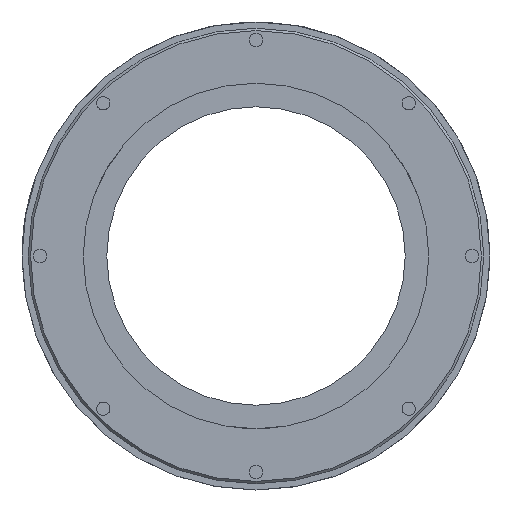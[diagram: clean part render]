
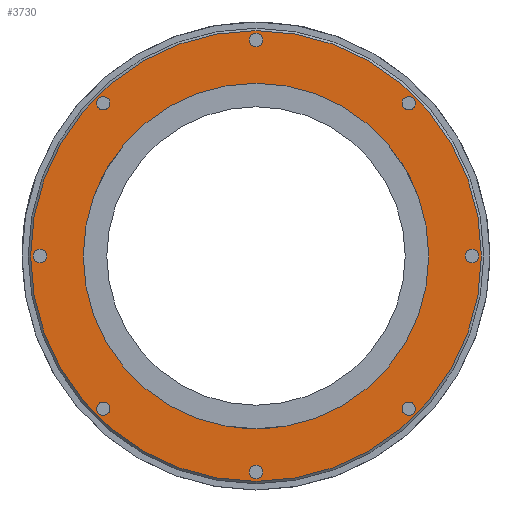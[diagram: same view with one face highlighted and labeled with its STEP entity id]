
A CAD part, left-side view. The second image highlights one B-rep face of the part: STEP entity #3730.
In plain terms, the highlighted planar face has unit normal (-1, 0, 0).
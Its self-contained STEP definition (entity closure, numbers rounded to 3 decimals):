
#3730=ADVANCED_FACE('3-0-545',(#4308,#4309,#4310,#4311,#4312,#4313,#4314,
#4315,#4316,#4317),#3977,.T.);
#3977=PLANE('',#7793);
#4308=FACE_BOUND('',#4630,.T.);
#4309=FACE_BOUND('',#4631,.T.);
#4310=FACE_BOUND('',#4632,.T.);
#4311=FACE_BOUND('',#4633,.T.);
#4312=FACE_BOUND('',#4634,.T.);
#4313=FACE_BOUND('',#4635,.T.);
#4314=FACE_BOUND('',#4636,.T.);
#4315=FACE_BOUND('',#4637,.T.);
#4316=FACE_BOUND('',#4638,.T.);
#4317=FACE_BOUND('',#4639,.T.);
#4630=EDGE_LOOP('',(#5431));
#4631=EDGE_LOOP('',(#5432));
#4632=EDGE_LOOP('',(#5433));
#4633=EDGE_LOOP('',(#5434));
#4634=EDGE_LOOP('',(#5435));
#4635=EDGE_LOOP('',(#5436));
#4636=EDGE_LOOP('',(#5437));
#4637=EDGE_LOOP('',(#5438));
#4638=EDGE_LOOP('',(#5439));
#4639=EDGE_LOOP('',(#5440));
#5431=ORIENTED_EDGE('',*,*,#6921,.T.);
#5432=ORIENTED_EDGE('',*,*,#6920,.F.);
#5433=ORIENTED_EDGE('',*,*,#6919,.F.);
#5434=ORIENTED_EDGE('',*,*,#6925,.T.);
#5435=ORIENTED_EDGE('',*,*,#6917,.T.);
#5436=ORIENTED_EDGE('',*,*,#6916,.F.);
#5437=ORIENTED_EDGE('',*,*,#6926,.T.);
#5438=ORIENTED_EDGE('',*,*,#6915,.F.);
#5439=ORIENTED_EDGE('',*,*,#6914,.F.);
#5440=ORIENTED_EDGE('',*,*,#6922,.T.);
#6426=VERTEX_POINT('',#10888);
#6427=VERTEX_POINT('',#10891);
#6428=VERTEX_POINT('',#10894);
#6429=VERTEX_POINT('',#10897);
#6431=VERTEX_POINT('',#10959);
#6432=VERTEX_POINT('',#10962);
#6433=VERTEX_POINT('',#10965);
#6434=VERTEX_POINT('',#10968);
#6437=VERTEX_POINT('',#10976);
#6438=VERTEX_POINT('',#10979);
#6914=EDGE_CURVE('',#6426,#6426,#7440,.T.);
#6915=EDGE_CURVE('',#6427,#6427,#7441,.T.);
#6916=EDGE_CURVE('',#6428,#6428,#7442,.T.);
#6917=EDGE_CURVE('',#6429,#6429,#7443,.T.);
#6919=EDGE_CURVE('',#6431,#6431,#7444,.T.);
#6920=EDGE_CURVE('',#6432,#6432,#7445,.T.);
#6921=EDGE_CURVE('',#6433,#6433,#7446,.T.);
#6922=EDGE_CURVE('',#6434,#6434,#7447,.T.);
#6925=EDGE_CURVE('',#6437,#6437,#7450,.T.);
#6926=EDGE_CURVE('',#6438,#6438,#7451,.T.);
#7440=CIRCLE('',#7771,0.85);
#7441=CIRCLE('',#7773,0.85);
#7442=CIRCLE('',#7775,0.85);
#7443=CIRCLE('',#7777,0.85);
#7444=CIRCLE('',#7779,22.);
#7445=CIRCLE('',#7781,0.85);
#7446=CIRCLE('',#7783,0.85);
#7447=CIRCLE('',#7785,28.7);
#7450=CIRCLE('',#7790,0.85);
#7451=CIRCLE('',#7792,0.85);
#7771=AXIS2_PLACEMENT_3D('',#10887,#8645,#8646);
#7773=AXIS2_PLACEMENT_3D('',#10890,#8649,#8650);
#7775=AXIS2_PLACEMENT_3D('',#10893,#8653,#8654);
#7777=AXIS2_PLACEMENT_3D('',#10896,#8657,#8658);
#7779=AXIS2_PLACEMENT_3D('',#10958,#8661,#8662);
#7781=AXIS2_PLACEMENT_3D('',#10961,#8665,#8666);
#7783=AXIS2_PLACEMENT_3D('',#10964,#8669,#8670);
#7785=AXIS2_PLACEMENT_3D('',#10967,#8673,#8674);
#7790=AXIS2_PLACEMENT_3D('',#10975,#8683,#8684);
#7792=AXIS2_PLACEMENT_3D('',#10978,#8687,#8688);
#7793=AXIS2_PLACEMENT_3D('',#10980,#8689,#8690);
#8645=DIRECTION('',(-1.,0.,0.));
#8646=DIRECTION('',(0.,0.,1.));
#8649=DIRECTION('',(-1.,0.,0.));
#8650=DIRECTION('',(0.,0.,1.));
#8653=DIRECTION('',(-1.,0.,0.));
#8654=DIRECTION('',(0.,0.,1.));
#8657=DIRECTION('',(1.,0.,0.));
#8658=DIRECTION('',(0.,0.,1.));
#8661=DIRECTION('',(-1.,0.,0.));
#8662=DIRECTION('',(0.,0.,-1.));
#8665=DIRECTION('',(-1.,0.,0.));
#8666=DIRECTION('',(0.,0.,1.));
#8669=DIRECTION('',(1.,0.,0.));
#8670=DIRECTION('',(0.,0.,1.));
#8673=DIRECTION('',(-1.,0.,0.));
#8674=DIRECTION('',(0.,0.,-1.));
#8683=DIRECTION('',(1.,0.,0.));
#8684=DIRECTION('',(0.,0.,-1.));
#8687=DIRECTION('',(1.,0.,0.));
#8688=DIRECTION('',(0.,0.,-1.));
#8689=DIRECTION('',(-1.,0.,0.));
#8690=DIRECTION('',(0.,0.,1.));
#10887=CARTESIAN_POINT('',(14.78,19.445,19.445));
#10888=CARTESIAN_POINT('',(14.78,19.445,20.295));
#10890=CARTESIAN_POINT('',(14.78,19.445,-19.445));
#10891=CARTESIAN_POINT('',(14.78,19.445,-18.595));
#10893=CARTESIAN_POINT('',(14.78,-19.445,-19.445));
#10894=CARTESIAN_POINT('',(14.78,-19.445,-18.595));
#10896=CARTESIAN_POINT('',(14.78,-19.445,19.445));
#10897=CARTESIAN_POINT('',(14.78,-19.445,20.295));
#10958=CARTESIAN_POINT('',(14.78,0.,0.));
#10959=CARTESIAN_POINT('',(14.78,0.,-22.));
#10961=CARTESIAN_POINT('',(14.78,27.5,0.));
#10962=CARTESIAN_POINT('',(14.78,27.5,0.85));
#10964=CARTESIAN_POINT('',(14.78,-27.5,0.));
#10965=CARTESIAN_POINT('',(14.78,-27.5,0.85));
#10967=CARTESIAN_POINT('',(14.78,0.,0.));
#10968=CARTESIAN_POINT('',(14.78,0.,-28.7));
#10975=CARTESIAN_POINT('',(14.78,0.,27.5));
#10976=CARTESIAN_POINT('',(14.78,0.,26.65));
#10978=CARTESIAN_POINT('',(14.78,0.,-27.5));
#10979=CARTESIAN_POINT('',(14.78,0.,-28.35));
#10980=CARTESIAN_POINT('',(14.78,31.9,31.9));
